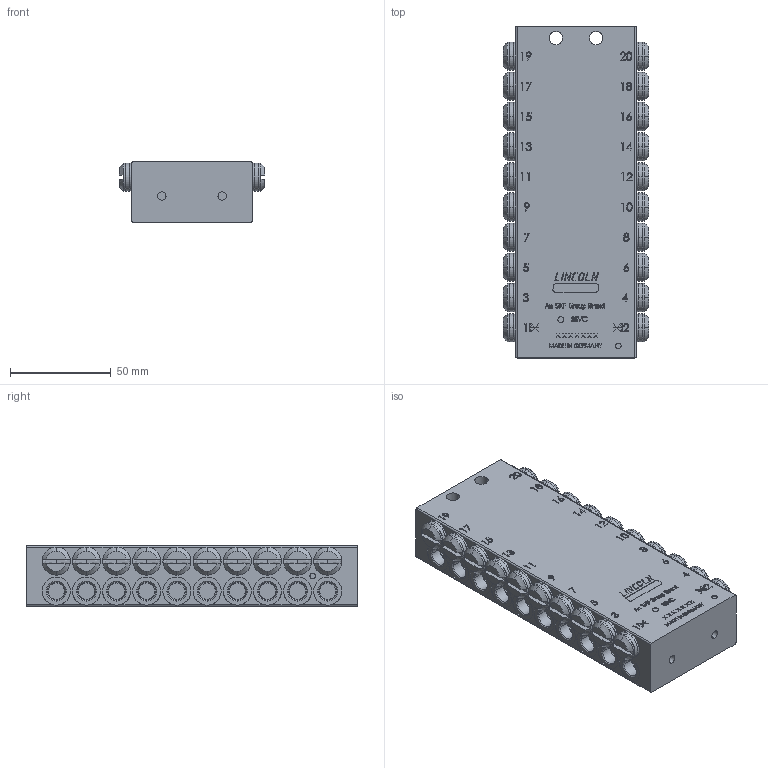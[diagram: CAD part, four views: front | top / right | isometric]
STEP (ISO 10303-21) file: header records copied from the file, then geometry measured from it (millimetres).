
FILE_DESCRIPTION (( 'STEP AP203' ), '1' );
FILE_NAME ('619-78161-1.STEP', '2024-05-15T07:35:09', ( '' ), ( '' ), 'SwSTEP 2.0', 'SolidWorks 2019', '' );
FILE_SCHEMA (( 'CONFIG_CONTROL_DESIGN' ));
Length unit declared in the file: millimetre
Products named in the file (4): 619-78161-1; 419-74571-1_VERTEILERKOERPER_F.SSVC22_(1.4305)M11X1~03_SSVC20; 219-13798-3_O-RING_70NBR_10,00_X_1,00~0; 303-19718-1_SCHRAUBE,VERS.SZ__M11X1,0X_5,0(1.4571)~-j
Assembly tree (41 placements, depth 2):
  619-78161-1
    419-74571-1_VERTEILERKOERPER_F.SSVC22_(1.4305)M11X1~03_SSVC20
    219-13798-3_O-RING_70NBR_10,00_X_1,00~0  x20
    303-19718-1_SCHRAUBE,VERS.SZ__M11X1,0X_5,0(1.4571)~-j  x20
Bounding box: 72.18 x 165 x 30 mm (x, y, z)
Volume: 305366.3 mm3; surface area: 58722.6 mm2
Topology: 41 solids, 41 shells, 3642 faces, 9052 edges, 5748 vertices
Faces by surface type: plane 1594, bspline 814, cone 600, cylinder 474, torus 160
Entity records: 118825 total; most frequent: CARTESIAN_POINT 56700, ORIENTED_EDGE 13958, DIRECTION 9723, EDGE_CURVE 6979, VERTEX_POINT 4627, LINE 4615, VECTOR 4615, EDGE_LOOP 2956
